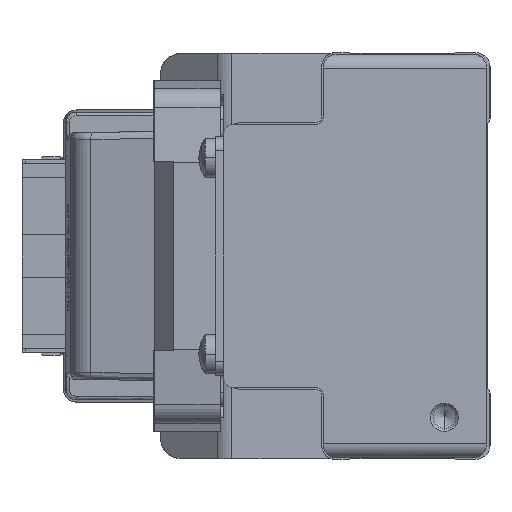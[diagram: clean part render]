
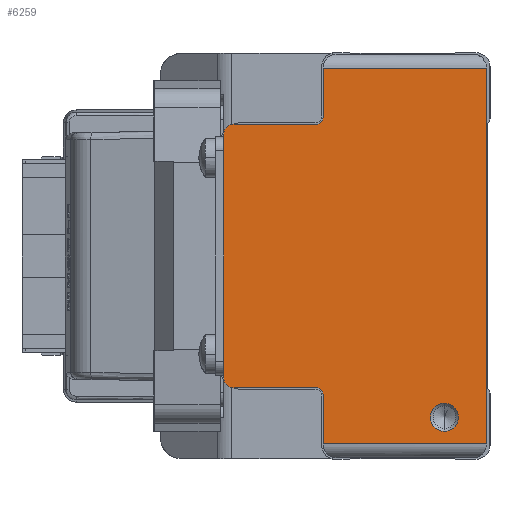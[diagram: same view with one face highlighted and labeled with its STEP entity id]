
A CAD part, left-side view. The second image highlights one B-rep face of the part: STEP entity #6259.
In plain terms, the highlighted planar face has unit normal (-1, 0, 0) as drawn and (0, 0, 1) by its records, which use the part's own axes.
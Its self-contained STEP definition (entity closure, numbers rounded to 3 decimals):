
#129 = CARTESIAN_POINT ( 'NONE',  ( 19.8, 24.8, 520. ) ) ;
#1239 = EDGE_LOOP ( 'NONE', ( #7580, #27809, #12623, #41407, #28480, #29046, #34815, #37022, #35091, #23851, #2899, #38675 ) ) ;
#1653 = DIRECTION ( 'NONE',  ( 0., 0., 1. ) ) ;
#1718 = VERTEX_POINT ( 'NONE', #27930 ) ;
#1742 = CIRCLE ( 'NONE', #18691, 2. ) ;
#2002 = AXIS2_PLACEMENT_3D ( 'NONE', #129, #37110, #37345 ) ;
#2244 = DIRECTION ( 'NONE',  ( 0., -1., 0. ) ) ;
#2899 = ORIENTED_EDGE ( 'NONE', *, *, #10806, .T. ) ;
#2990 = AXIS2_PLACEMENT_3D ( 'NONE', #4756, #35501, #39060 ) ;
#3204 = EDGE_CURVE ( 'NONE', #13829, #19713, #4203, .T. ) ;
#3259 = AXIS2_PLACEMENT_3D ( 'NONE', #25808, #39343, #19426 ) ;
#3350 = DIRECTION ( 'NONE',  ( -1., 0., 0. ) ) ;
#3352 = CARTESIAN_POINT ( 'NONE',  ( -18.8, 36.5, 520. ) ) ;
#3579 = VECTOR ( 'NONE', #36975, 1000. ) ;
#4203 = LINE ( 'NONE', #33673, #6848 ) ;
#4724 = CARTESIAN_POINT ( 'NONE',  ( -26.8, 23.8, 520. ) ) ;
#4756 = CARTESIAN_POINT ( 'NONE',  ( -26.8, 21.8, 520. ) ) ;
#6259 = ADVANCED_FACE ( 'NONE', ( #32206, #18029 ), #18714, .T. ) ;
#6848 = VECTOR ( 'NONE', #3350, 1000. ) ;
#7580 = ORIENTED_EDGE ( 'NONE', *, *, #40076, .T. ) ;
#7650 = EDGE_CURVE ( 'NONE', #17696, #28588, #42788, .T. ) ;
#9723 = CIRCLE ( 'NONE', #36593, 1. ) ;
#10806 = EDGE_CURVE ( 'NONE', #25594, #37700, #11361, .T. ) ;
#10873 = EDGE_CURVE ( 'NONE', #17696, #1718, #26222, .T. ) ;
#10907 = CARTESIAN_POINT ( 'NONE',  ( -26.8, 0.5, 520. ) ) ;
#11042 = AXIS2_PLACEMENT_3D ( 'NONE', #40713, #40501, #42798 ) ;
#11242 = CARTESIAN_POINT ( 'NONE',  ( -17.3, 38., 520. ) ) ;
#11361 = LINE ( 'NONE', #12582, #21849 ) ;
#11393 = CARTESIAN_POINT ( 'NONE',  ( 26.8, 0.5, 520. ) ) ;
#11684 = LINE ( 'NONE', #25143, #36154 ) ;
#11708 = VERTEX_POINT ( 'NONE', #13435 ) ;
#12582 = CARTESIAN_POINT ( 'NONE',  ( 17.3, 38., 520. ) ) ;
#12623 = ORIENTED_EDGE ( 'NONE', *, *, #3204, .T. ) ;
#13435 = CARTESIAN_POINT ( 'NONE',  ( -18.8, 24.8, 520. ) ) ;
#13829 = VERTEX_POINT ( 'NONE', #31341 ) ;
#14163 = VERTEX_POINT ( 'NONE', #15564 ) ;
#14702 = CARTESIAN_POINT ( 'NONE',  ( 18.8, 24.8, 520. ) ) ;
#14919 = EDGE_CURVE ( 'NONE', #37700, #37260, #30135, .T. ) ;
#14973 = VECTOR ( 'NONE', #29702, 1000. ) ;
#15230 = DIRECTION ( 'NONE',  ( 0., -1., 0. ) ) ;
#15467 = ORIENTED_EDGE ( 'NONE', *, *, #15704, .T. ) ;
#15564 = CARTESIAN_POINT ( 'NONE',  ( 18.8, 36.5, 520. ) ) ;
#15704 = EDGE_CURVE ( 'NONE', #41632, #23753, #38610, .T. ) ;
#16528 = DIRECTION ( 'NONE',  ( 1., 0., 0. ) ) ;
#17696 = VERTEX_POINT ( 'NONE', #33002 ) ;
#17899 = CARTESIAN_POINT ( 'NONE',  ( 17.3, 38., 520. ) ) ;
#18029 = FACE_OUTER_BOUND ( 'NONE', #1239, .T. ) ;
#18476 = DIRECTION ( 'NONE',  ( 1., 0., 0. ) ) ;
#18575 = EDGE_CURVE ( 'NONE', #23753, #41632, #1742, .T. ) ;
#18691 = AXIS2_PLACEMENT_3D ( 'NONE', #38657, #22269, #28895 ) ;
#18714 = PLANE ( 'NONE',  #2990 ) ;
#19426 = DIRECTION ( 'NONE',  ( 1., 0., 0. ) ) ;
#19713 = VERTEX_POINT ( 'NONE', #4724 ) ;
#20409 = CARTESIAN_POINT ( 'NONE',  ( 18.8, 24.8, 520. ) ) ;
#20964 = AXIS2_PLACEMENT_3D ( 'NONE', #24638, #1653, #18476 ) ;
#21544 = VERTEX_POINT ( 'NONE', #10907 ) ;
#21657 = CIRCLE ( 'NONE', #3259, 1.5 ) ;
#21849 = VECTOR ( 'NONE', #30227, 1000. ) ;
#22269 = DIRECTION ( 'NONE',  ( 0., 0., -1. ) ) ;
#22833 = CARTESIAN_POINT ( 'NONE',  ( 26.8, 24., 520. ) ) ;
#23147 = CARTESIAN_POINT ( 'NONE',  ( 26.8, 23.8, 520. ) ) ;
#23753 = VERTEX_POINT ( 'NONE', #43208 ) ;
#23851 = ORIENTED_EDGE ( 'NONE', *, *, #42342, .T. ) ;
#24638 = CARTESIAN_POINT ( 'NONE',  ( -17.3, 36.5, 520. ) ) ;
#25143 = CARTESIAN_POINT ( 'NONE',  ( -26.8, 24., 520. ) ) ;
#25594 = VERTEX_POINT ( 'NONE', #17899 ) ;
#25808 = CARTESIAN_POINT ( 'NONE',  ( 17.3, 36.5, 520. ) ) ;
#26220 = DIRECTION ( 'NONE',  ( 0., 0., 1. ) ) ;
#26222 = LINE ( 'NONE', #23147, #33138 ) ;
#27809 = ORIENTED_EDGE ( 'NONE', *, *, #30747, .F. ) ;
#27816 = VECTOR ( 'NONE', #2244, 1000. ) ;
#27930 = CARTESIAN_POINT ( 'NONE',  ( 19.8, 23.8, 520. ) ) ;
#28480 = ORIENTED_EDGE ( 'NONE', *, *, #36308, .T. ) ;
#28588 = VERTEX_POINT ( 'NONE', #11393 ) ;
#28895 = DIRECTION ( 'NONE',  ( -1., 0., 0. ) ) ;
#29046 = ORIENTED_EDGE ( 'NONE', *, *, #7650, .F. ) ;
#29479 = CARTESIAN_POINT ( 'NONE',  ( -18.8, 36.5, 520. ) ) ;
#29596 = CARTESIAN_POINT ( 'NONE',  ( -26.8, 0.5, 520. ) ) ;
#29702 = DIRECTION ( 'NONE',  ( 0., -1., 0. ) ) ;
#29887 = LINE ( 'NONE', #20409, #3579 ) ;
#30135 = CIRCLE ( 'NONE', #20964, 1.5 ) ;
#30227 = DIRECTION ( 'NONE',  ( -1., 0., 0. ) ) ;
#30747 = EDGE_CURVE ( 'NONE', #13829, #11708, #9723, .T. ) ;
#31341 = CARTESIAN_POINT ( 'NONE',  ( -19.8, 23.8, 520. ) ) ;
#31802 = EDGE_CURVE ( 'NONE', #38835, #14163, #29887, .T. ) ;
#32206 = FACE_BOUND ( 'NONE', #35013, .T. ) ;
#32302 = EDGE_CURVE ( 'NONE', #19713, #21544, #11684, .T. ) ;
#32387 = CIRCLE ( 'NONE', #2002, 1. ) ;
#32577 = LINE ( 'NONE', #29479, #27816 ) ;
#33002 = CARTESIAN_POINT ( 'NONE',  ( 26.8, 23.8, 520. ) ) ;
#33138 = VECTOR ( 'NONE', #36422, 1000. ) ;
#33673 = CARTESIAN_POINT ( 'NONE',  ( -19.8, 23.8, 520. ) ) ;
#34005 = CARTESIAN_POINT ( 'NONE',  ( -21., 6.5, 520. ) ) ;
#34815 = ORIENTED_EDGE ( 'NONE', *, *, #10873, .T. ) ;
#35013 = EDGE_LOOP ( 'NONE', ( #36249, #15467 ) ) ;
#35091 = ORIENTED_EDGE ( 'NONE', *, *, #31802, .T. ) ;
#35501 = DIRECTION ( 'NONE',  ( 0., 0., 1. ) ) ;
#35766 = CARTESIAN_POINT ( 'NONE',  ( -19.8, 24.8, 520. ) ) ;
#35872 = VECTOR ( 'NONE', #37093, 1000. ) ;
#36154 = VECTOR ( 'NONE', #15230, 1000. ) ;
#36249 = ORIENTED_EDGE ( 'NONE', *, *, #18575, .T. ) ;
#36308 = EDGE_CURVE ( 'NONE', #21544, #28588, #40424, .T. ) ;
#36422 = DIRECTION ( 'NONE',  ( -1., 0., 0. ) ) ;
#36593 = AXIS2_PLACEMENT_3D ( 'NONE', #35766, #26220, #16528 ) ;
#36975 = DIRECTION ( 'NONE',  ( 0., 1., 0. ) ) ;
#37022 = ORIENTED_EDGE ( 'NONE', *, *, #43448, .F. ) ;
#37093 = DIRECTION ( 'NONE',  ( 1., 0., 0. ) ) ;
#37110 = DIRECTION ( 'NONE',  ( 0., 0., 1. ) ) ;
#37260 = VERTEX_POINT ( 'NONE', #3352 ) ;
#37345 = DIRECTION ( 'NONE',  ( 1., 0., 0. ) ) ;
#37700 = VERTEX_POINT ( 'NONE', #11242 ) ;
#38610 = CIRCLE ( 'NONE', #11042, 2. ) ;
#38657 = CARTESIAN_POINT ( 'NONE',  ( -23., 6.5, 520. ) ) ;
#38675 = ORIENTED_EDGE ( 'NONE', *, *, #14919, .T. ) ;
#38835 = VERTEX_POINT ( 'NONE', #14702 ) ;
#39060 = DIRECTION ( 'NONE',  ( 1., 0., 0. ) ) ;
#39343 = DIRECTION ( 'NONE',  ( 0., 0., 1. ) ) ;
#40076 = EDGE_CURVE ( 'NONE', #37260, #11708, #32577, .T. ) ;
#40424 = LINE ( 'NONE', #29596, #35872 ) ;
#40501 = DIRECTION ( 'NONE',  ( 0., 0., -1. ) ) ;
#40713 = CARTESIAN_POINT ( 'NONE',  ( -23., 6.5, 520. ) ) ;
#41407 = ORIENTED_EDGE ( 'NONE', *, *, #32302, .T. ) ;
#41632 = VERTEX_POINT ( 'NONE', #34005 ) ;
#42342 = EDGE_CURVE ( 'NONE', #14163, #25594, #21657, .T. ) ;
#42788 = LINE ( 'NONE', #22833, #14973 ) ;
#42798 = DIRECTION ( 'NONE',  ( -1., 0., 0. ) ) ;
#43208 = CARTESIAN_POINT ( 'NONE',  ( -25., 6.5, 520. ) ) ;
#43448 = EDGE_CURVE ( 'NONE', #38835, #1718, #32387, .T. ) ;
